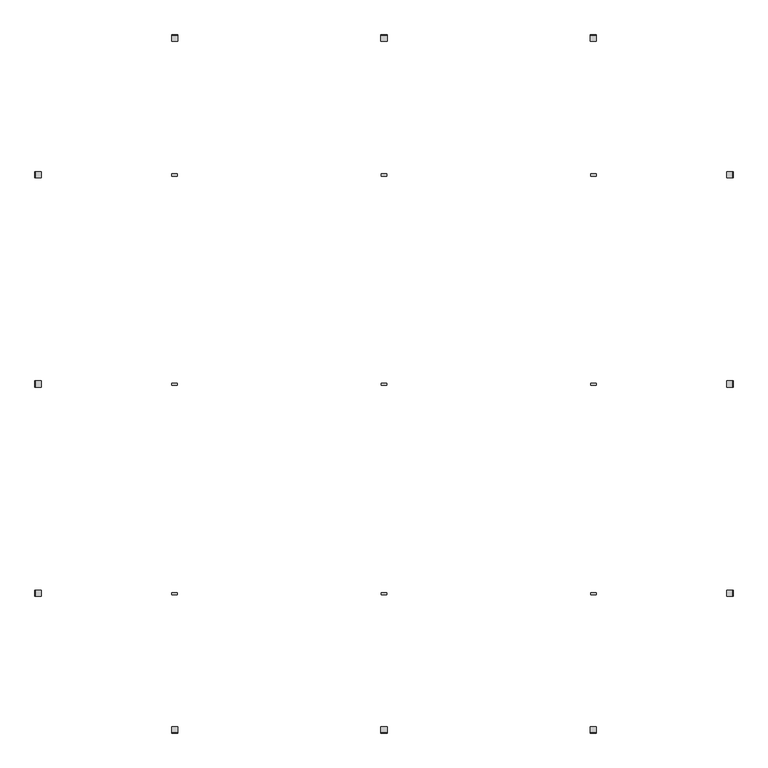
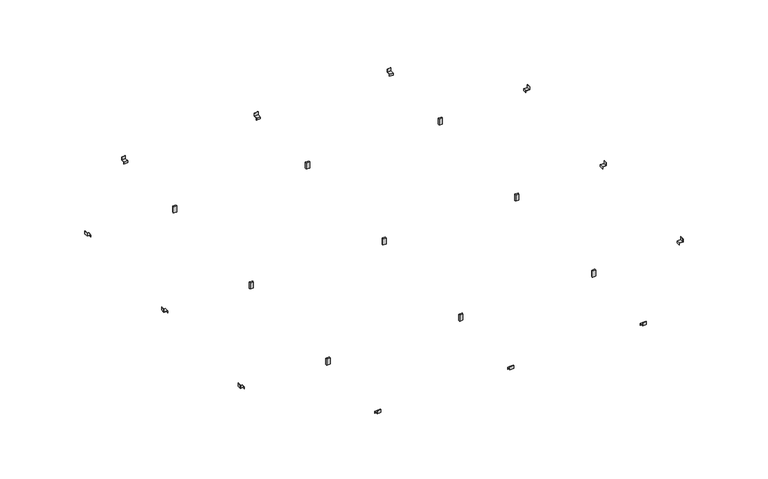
"""IFC4 building model written with IfcOpenShell, lengths in millimetres: proxy geometry, durlum_S1.12 : durlum_S1.12."""

from ifc_helpers import new_model, si_unit, frame, origin, place, context, project, spatial, polyline, outline, extrude, source, transform, mapped, element, save


def generic_models_ec4af956(model_context):
    return source(origin(), model_context, "Body", "SweptSolid", [
        extrude(outline(polyline([(2000.0, 5358.6851536), (1966.0, 5358.6851536), (1966.0, 5340.6851536), (1965.0, 5340.6851536), (1965.0, 5359.6851536), (1999.0, 5359.6851536), (1999.0, 5387.6851536), (2000.0, 5387.6851536), (2000.0, 5358.6851536)])), frame((-17.3199473, 0.0, 0.0), z_axis=(1.0, 0.0, 0.0), x_axis=(0.0, 1.0, 0.0)), (0.0, 0.0, 1.0), 34.6398947),
        extrude(outline(polyline([(-2000.0, 5358.6851536), (-2000.0, 5387.6851536), (-1999.0, 5387.6851536), (-1999.0, 5359.6851536), (-1965.0, 5359.6851536), (-1965.0, 5340.6851536), (-1966.0, 5340.6851536), (-1966.0, 5358.6851536), (-2000.0, 5358.6851536)])), frame((-17.3199473, 0.0, 0.0), z_axis=(1.0, 0.0, 0.0), x_axis=(0.0, 1.0, 0.0)), (0.0, 0.0, 1.0), 34.6398947),
        extrude(outline(polyline([(-2000.0, 5358.6851536), (-2000.0, 5387.6851536), (-1999.0, 5387.6851536), (-1999.0, 5359.6851536), (-1965.0, 5359.6851536), (-1965.0, 5340.6851536), (-1966.0, 5340.6851536), (-1966.0, 5358.6851536), (-2000.0, 5358.6851536)])), frame((-1217.3199473, 0.0, 0.0), z_axis=(1.0, 0.0, 0.0), x_axis=(0.0, 1.0, 0.0)), (0.0, 0.0, 1.0), 34.6398947),
        extrude(outline(polyline([(2000.0, 5358.6851536), (1966.0, 5358.6851536), (1966.0, 5340.6851536), (1965.0, 5340.6851536), (1965.0, 5359.6851536), (1999.0, 5359.6851536), (1999.0, 5387.6851536), (2000.0, 5387.6851536), (2000.0, 5358.6851536)])), frame((-1217.3199473, 0.0, 0.0), z_axis=(1.0, 0.0, 0.0), x_axis=(0.0, 1.0, 0.0)), (0.0, 0.0, 1.0), 34.6398947),
        extrude(outline(polyline([(2000.0, 5358.6851536), (1966.0, 5358.6851536), (1966.0, 5340.6851536), (1965.0, 5340.6851536), (1965.0, 5359.6851536), (1999.0, 5359.6851536), (1999.0, 5387.6851536), (2000.0, 5387.6851536), (2000.0, 5358.6851536)])), frame((1182.6800527, 0.0, 0.0), z_axis=(1.0, 0.0, 0.0), x_axis=(0.0, 1.0, 0.0)), (0.0, 0.0, 1.0), 34.6398947),
        extrude(outline(polyline([(-2000.0, 5358.6851536), (-2000.0, 5387.6851536), (-1999.0, 5387.6851536), (-1999.0, 5359.6851536), (-1965.0, 5359.6851536), (-1965.0, 5340.6851536), (-1966.0, 5340.6851536), (-1966.0, 5358.6851536), (-2000.0, 5358.6851536)])), frame((1182.6800527, 0.0, 0.0), z_axis=(1.0, 0.0, 0.0), x_axis=(0.0, 1.0, 0.0)), (0.0, 0.0, 1.0), 34.6398947),
        extrude(outline(polyline([(15.0, 3.6253613), (15.0, -8.4811477), (-15.0, -8.4811477), (-15.0, 3.6253613), (15.0, 3.6253613)])), frame((0.0, 0.0, 5341.2737173), z_axis=(0.0, 0.0, 1.0), x_axis=(1.0, 0.0, 0.0)), (0.0, 0.0, 1.0), 59.2290353),
        extrude(outline(polyline([(1215.0, 3.6253613), (1215.0, -8.4811477), (1185.0, -8.4811477), (1185.0, 3.6253613), (1215.0, 3.6253613)])), frame((0.0, 0.0, 5341.4996712), z_axis=(0.0, 0.0, 1.0), x_axis=(1.0, 0.0, 0.0)), (0.0, 0.0, 1.0), 59.2290353),
        extrude(outline(polyline([(-1185.0, 3.6253613), (-1185.0, -8.4811477), (-1215.0, -8.4811477), (-1215.0, 3.6253613), (-1185.0, 3.6253613)])), frame((0.0, 0.0, 5341.0477634), z_axis=(0.0, 0.0, 1.0), x_axis=(1.0, 0.0, 0.0)), (0.0, 0.0, 1.0), 59.2290353),
        extrude(outline(polyline([(5399.6851536, 2000.0), (5428.6851536, 2000.0), (5428.6851536, 1999.0), (5400.6851536, 1999.0), (5400.6851536, 1965.0), (5381.6851536, 1965.0), (5381.6851536, 1966.0), (5399.6851536, 1966.0), (5399.6851536, 2000.0)])), frame((0.0, -17.3199473, 0.0), z_axis=(0.0, 1.0, 0.0), x_axis=(0.0, 0.0, 1.0)), (0.0, 0.0, 1.0), 34.6398947),
        extrude(outline(polyline([(5399.6851536, -2000.0), (5399.6851536, -1966.0), (5381.6851536, -1966.0), (5381.6851536, -1965.0), (5400.6851536, -1965.0), (5400.6851536, -1999.0), (5428.6851536, -1999.0), (5428.6851536, -2000.0), (5399.6851536, -2000.0)])), frame((0.0, -17.3199473, 0.0), z_axis=(0.0, 1.0, 0.0), x_axis=(0.0, 0.0, 1.0)), (0.0, 0.0, 1.0), 34.6398947),
        extrude(outline(polyline([(15.0, -1196.3746387), (15.0, -1208.4811477), (-15.0, -1208.4811477), (-15.0, -1196.3746387), (15.0, -1196.3746387)])), frame((0.0, 0.0, 5341.2737173), z_axis=(0.0, 0.0, 1.0), x_axis=(1.0, 0.0, 0.0)), (0.0, 0.0, 1.0), 59.2290353),
        extrude(outline(polyline([(1215.0, -1196.3746387), (1215.0, -1208.4811477), (1185.0, -1208.4811477), (1185.0, -1196.3746387), (1215.0, -1196.3746387)])), frame((0.0, 0.0, 5341.4996712), z_axis=(0.0, 0.0, 1.0), x_axis=(1.0, 0.0, 0.0)), (0.0, 0.0, 1.0), 59.2290353),
        extrude(outline(polyline([(-1185.0, -1196.3746387), (-1185.0, -1208.4811477), (-1215.0, -1208.4811477), (-1215.0, -1196.3746387), (-1185.0, -1196.3746387)])), frame((0.0, 0.0, 5341.0477634), z_axis=(0.0, 0.0, 1.0), x_axis=(1.0, 0.0, 0.0)), (0.0, 0.0, 1.0), 59.2290353),
        extrude(outline(polyline([(5399.6851536, 2000.0), (5428.6851536, 2000.0), (5428.6851536, 1999.0), (5400.6851536, 1999.0), (5400.6851536, 1965.0), (5381.6851536, 1965.0), (5381.6851536, 1966.0), (5399.6851536, 1966.0), (5399.6851536, 2000.0)])), frame((0.0, -1217.3199473, 0.0), z_axis=(0.0, 1.0, 0.0), x_axis=(0.0, 0.0, 1.0)), (0.0, 0.0, 1.0), 34.6398947),
        extrude(outline(polyline([(5399.6851536, -2000.0), (5399.6851536, -1966.0), (5381.6851536, -1966.0), (5381.6851536, -1965.0), (5400.6851536, -1965.0), (5400.6851536, -1999.0), (5428.6851536, -1999.0), (5428.6851536, -2000.0), (5399.6851536, -2000.0)])), frame((0.0, -1217.3199473, 0.0), z_axis=(0.0, 1.0, 0.0), x_axis=(0.0, 0.0, 1.0)), (0.0, 0.0, 1.0), 34.6398947),
        extrude(outline(polyline([(15.0, 1203.6253613), (15.0, 1191.5188523), (-15.0, 1191.5188523), (-15.0, 1203.6253613), (15.0, 1203.6253613)])), frame((0.0, 0.0, 5341.2737173), z_axis=(0.0, 0.0, 1.0), x_axis=(1.0, 0.0, 0.0)), (0.0, 0.0, 1.0), 59.2290353),
        extrude(outline(polyline([(1215.0, 1203.6253613), (1215.0, 1191.5188523), (1185.0, 1191.5188523), (1185.0, 1203.6253613), (1215.0, 1203.6253613)])), frame((0.0, 0.0, 5341.4996712), z_axis=(0.0, 0.0, 1.0), x_axis=(1.0, 0.0, 0.0)), (0.0, 0.0, 1.0), 59.2290353),
        extrude(outline(polyline([(-1185.0, 1203.6253613), (-1185.0, 1191.5188523), (-1215.0, 1191.5188523), (-1215.0, 1203.6253613), (-1185.0, 1203.6253613)])), frame((0.0, 0.0, 5341.0477634), z_axis=(0.0, 0.0, 1.0), x_axis=(1.0, 0.0, 0.0)), (0.0, 0.0, 1.0), 59.2290353),
        extrude(outline(polyline([(5399.6851536, 2000.0), (5428.6851536, 2000.0), (5428.6851536, 1999.0), (5400.6851536, 1999.0), (5400.6851536, 1965.0), (5381.6851536, 1965.0), (5381.6851536, 1966.0), (5399.6851536, 1966.0), (5399.6851536, 2000.0)])), frame((0.0, 1182.6800527, 0.0), z_axis=(0.0, 1.0, 0.0), x_axis=(0.0, 0.0, 1.0)), (0.0, 0.0, 1.0), 34.6398947),
        extrude(outline(polyline([(5399.6851536, -2000.0), (5399.6851536, -1966.0), (5381.6851536, -1966.0), (5381.6851536, -1965.0), (5400.6851536, -1965.0), (5400.6851536, -1999.0), (5428.6851536, -1999.0), (5428.6851536, -2000.0), (5399.6851536, -2000.0)])), frame((0.0, 1182.6800527, 0.0), z_axis=(0.0, 1.0, 0.0), x_axis=(0.0, 0.0, 1.0)), (0.0, 0.0, 1.0), 34.6398947),
    ])


if __name__ == "__main__":
    model = new_model("IFC4")
    model_context = context("Model", 3, world=origin())
    ifc_project = project(units=[si_unit("LENGTHUNIT", "METRE", prefix="MILLI")], contexts=[model_context])
    site = spatial("IfcSite", under=ifc_project)
    building = spatial("IfcBuilding", under=site)
    placement = place(None, origin())
    generic_models_shape = generic_models_ec4af956(model_context)
    element("IfcBuildingElementProxy", 1, Name="durlum_S1.12 : durlum_S1.12", ObjectType="durlum_S1.12 : durlum_S1.12", at=placement, inside=building, context=model_context, shape_type="MappedRepresentation", body=[
        mapped(generic_models_shape, transform((0.0, 0.0, 0.0), x_axis=(1.0, 0.0, 0.0), y_axis=(0.0, 1.0, 0.0), z_axis=(0.0, 0.0, 1.0))),
    ])
    save(model, "model.ifc")
